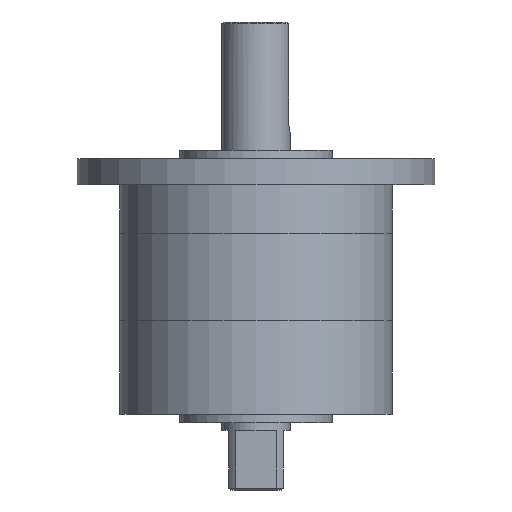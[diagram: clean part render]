
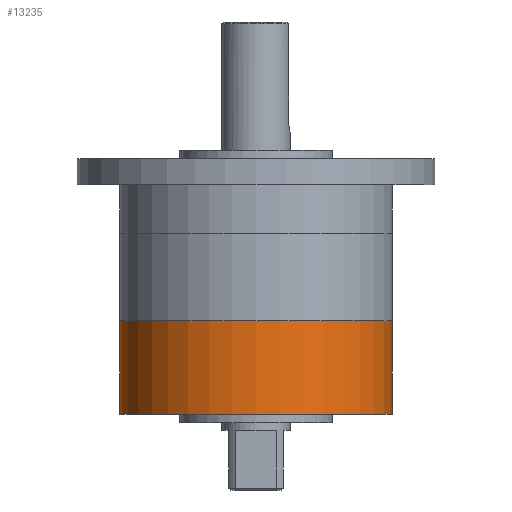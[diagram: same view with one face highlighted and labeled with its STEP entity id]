
A CAD part, front view. The second image highlights one B-rep face of the part: STEP entity #13235.
In plain terms, the highlighted cylindrical face has radius 80 mm (diameter 160 mm), a partial arc.
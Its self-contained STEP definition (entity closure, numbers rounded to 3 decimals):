
#38 = FACE_OUTER_BOUND ( 'NONE', #12650, .T. ) ;
#1030 = CARTESIAN_POINT ( 'NONE',  ( 0., 0., 0. ) ) ;
#1290 = ORIENTED_EDGE ( 'NONE', *, *, #9342, .F. ) ;
#1657 = DIRECTION ( 'NONE',  ( 0., 0., 1. ) ) ;
#1698 = EDGE_CURVE ( 'NONE', #3738, #7431, #4394, .T. ) ;
#2060 = ORIENTED_EDGE ( 'NONE', *, *, #5843, .F. ) ;
#2253 = DIRECTION ( 'NONE',  ( 0., 0., 1. ) ) ;
#2825 = CYLINDRICAL_SURFACE ( 'NONE', #7508, 80. ) ;
#3082 = LINE ( 'NONE', #7480, #16187 ) ;
#3086 = CARTESIAN_POINT ( 'NONE',  ( 80., 0., -55. ) ) ;
#3369 = DIRECTION ( 'NONE',  ( 1., 0., 0. ) ) ;
#3738 = VERTEX_POINT ( 'NONE', #3086 ) ;
#3769 = DIRECTION ( 'NONE',  ( 0., 0., 1. ) ) ;
#3961 = AXIS2_PLACEMENT_3D ( 'NONE', #16430, #11329, #8804 ) ;
#4394 = LINE ( 'NONE', #16290, #12331 ) ;
#5403 = CARTESIAN_POINT ( 'NONE',  ( -80., 0., 0. ) ) ;
#5807 = EDGE_CURVE ( 'NONE', #8873, #3738, #9441, .T. ) ;
#5843 = EDGE_CURVE ( 'NONE', #8873, #10028, #3082, .T. ) ;
#7431 = VERTEX_POINT ( 'NONE', #9220 ) ;
#7480 = CARTESIAN_POINT ( 'NONE',  ( -80., 0., -55. ) ) ;
#7508 = AXIS2_PLACEMENT_3D ( 'NONE', #13226, #1657, #9401 ) ;
#8736 = AXIS2_PLACEMENT_3D ( 'NONE', #1030, #2253, #3369 ) ;
#8804 = DIRECTION ( 'NONE',  ( 1., 0., 0. ) ) ;
#8873 = VERTEX_POINT ( 'NONE', #12891 ) ;
#9220 = CARTESIAN_POINT ( 'NONE',  ( 80., 0., 0. ) ) ;
#9342 = EDGE_CURVE ( 'NONE', #10028, #7431, #15649, .T. ) ;
#9401 = DIRECTION ( 'NONE',  ( 1., 0., 0. ) ) ;
#9441 = CIRCLE ( 'NONE', #3961, 80. ) ;
#10028 = VERTEX_POINT ( 'NONE', #5403 ) ;
#10130 = ORIENTED_EDGE ( 'NONE', *, *, #5807, .T. ) ;
#10444 = ORIENTED_EDGE ( 'NONE', *, *, #1698, .T. ) ;
#11329 = DIRECTION ( 'NONE',  ( 0., 0., 1. ) ) ;
#12331 = VECTOR ( 'NONE', #15158, 1000. ) ;
#12650 = EDGE_LOOP ( 'NONE', ( #2060, #10130, #10444, #1290 ) ) ;
#12891 = CARTESIAN_POINT ( 'NONE',  ( -80., 0., -55. ) ) ;
#13226 = CARTESIAN_POINT ( 'NONE',  ( 0., 0., -55. ) ) ;
#13235 = ADVANCED_FACE ( 'NONE', ( #38 ), #2825, .T. ) ;
#15158 = DIRECTION ( 'NONE',  ( 0., 0., 1. ) ) ;
#15649 = CIRCLE ( 'NONE', #8736, 80. ) ;
#16187 = VECTOR ( 'NONE', #3769, 1000. ) ;
#16290 = CARTESIAN_POINT ( 'NONE',  ( 80., 0., -55. ) ) ;
#16430 = CARTESIAN_POINT ( 'NONE',  ( 0., 0., -55. ) ) ;
